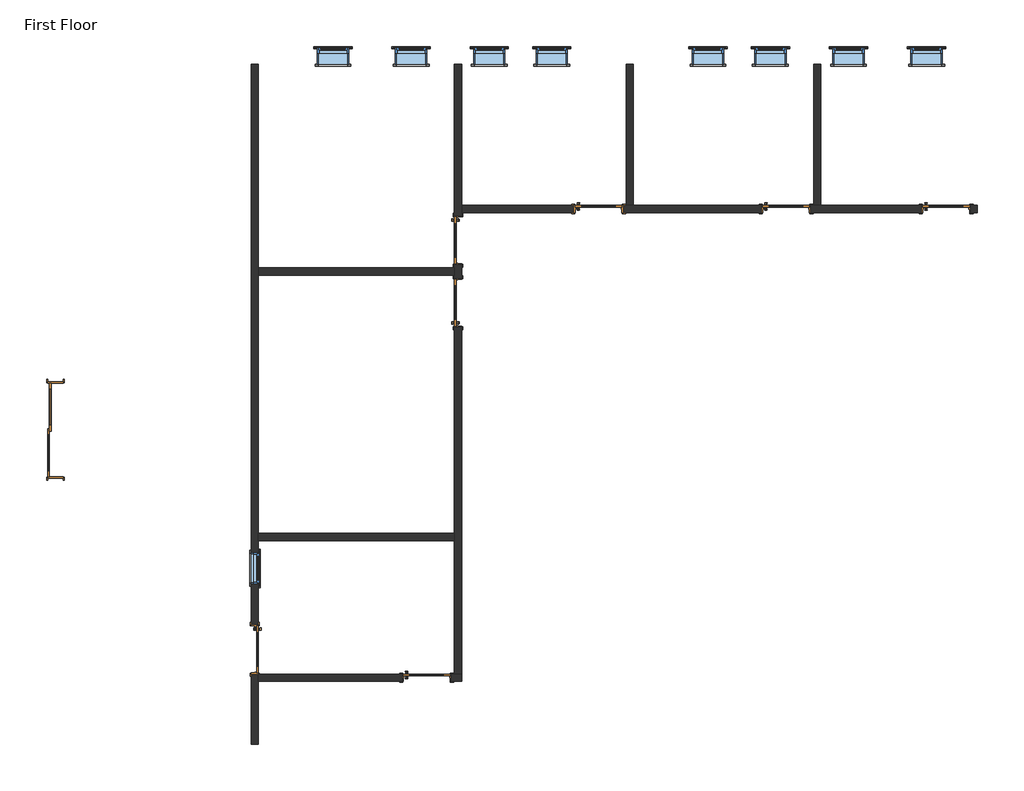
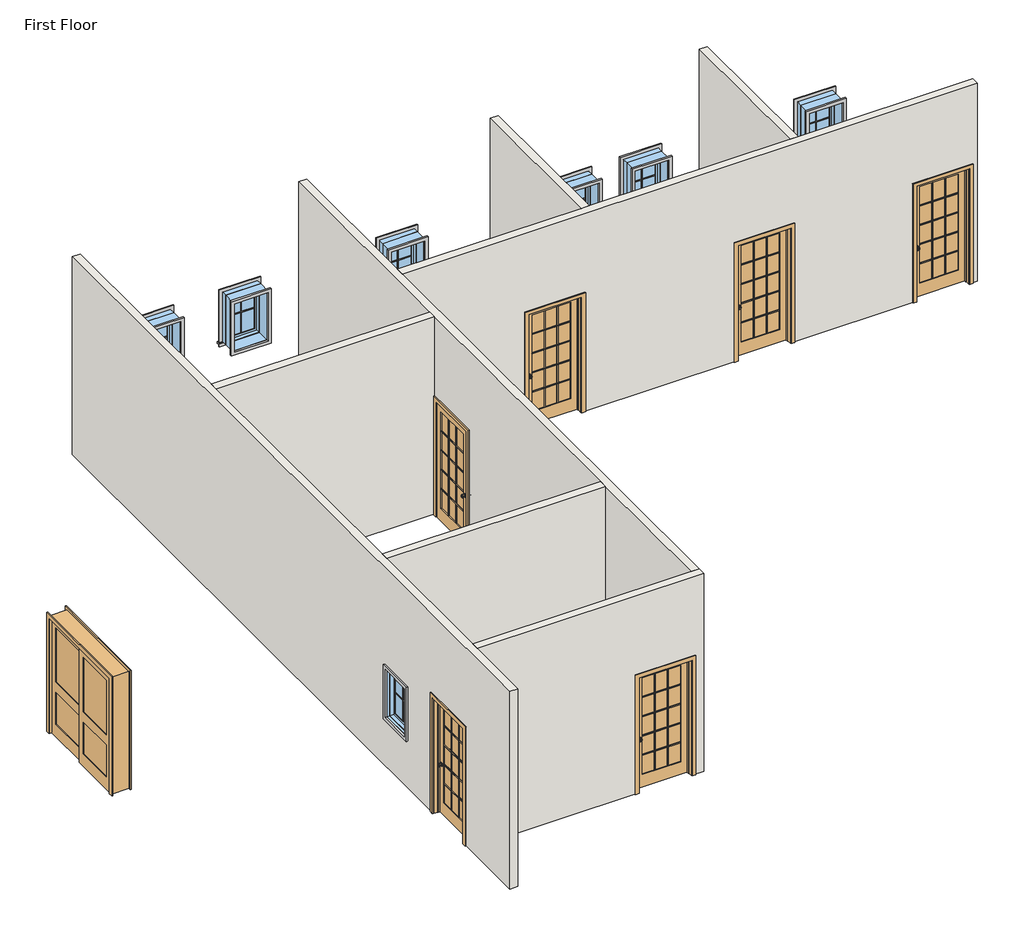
# One storey: 27 proxies, 9 windows, 8 doors, 8 walls.
"""IFC4 building model written with IfcOpenShell, lengths in millimetres."""

from ifc_helpers import new_model, si_unit, frame, origin, place, context, project, spatial, polyline, outline, extrude, faceted_brep, transform, mapped, element, save
from components import muntin_pattern_2x2_muntin_pattern_2x2_cf4092f1, muntin_pattern_2x2_muntin_pattern_2x2_49143b38, trim_window_exterior_flat_with_sill_a665a915, trim_window_exterior_flat_with_sill_4c72db77, trim_window_interior_flat_picture_frame_d485c387, trim_window_interior_flat_picture_frame_dfd23ff3, door_956c32c9, door_918c180d, door_79dd3e86, window_d7bc73cd, window_8e02f281, window_2fd3c40a

model = new_model("IFC4")

# Units and contexts
model_context = context("Model", 3, world=origin())
ifc_project = project(units=[si_unit("LENGTHUNIT", "METRE", prefix="MILLI")], contexts=[model_context])

# Site, building, storey
site = spatial("IfcSite", under=ifc_project)
building = spatial("IfcBuilding", under=site)
storey = spatial("IfcBuildingStorey", under=building, Name="First Floor", Elevation=3657.6)

# Proxies
placement = place(None, origin())
muntin_pattern_2x2_muntin_pattern_2x2_shape = muntin_pattern_2x2_muntin_pattern_2x2_cf4092f1(model_context)
element("IfcBuildingElementProxy", 1, Name="Muntin Pattern_2x2 : Muntin Pattern_2x2", ObjectType="Muntin Pattern_2x2 : Muntin Pattern_2x2", at=placement, inside=storey, context=model_context, shape_type="MappedRepresentation", body=[
    mapped(muntin_pattern_2x2_muntin_pattern_2x2_shape, transform((-14168.6597136, 1858.8705992, 4641.85), x_axis=(0.0, -1.0, 0.0), y_axis=(1.0, 0.0, 0.0), z_axis=(0.0, 0.0, 1.0))),
])
element("IfcBuildingElementProxy", 2, Name="Muntin Pattern_2x2 : Muntin Pattern_2x2", ObjectType="Muntin Pattern_2x2 : Muntin Pattern_2x2", at=placement, inside=storey, context=model_context, shape_type="MappedRepresentation", body=[
    mapped(muntin_pattern_2x2_muntin_pattern_2x2_shape, transform((-1122.5847136, 11991.8830992, 4641.85), x_axis=(1.0, 0.0, 0.0), y_axis=(0.0, 1.0, 0.0), z_axis=(0.0, 0.0, 1.0))),
])
element("IfcBuildingElementProxy", 3, Name="Muntin Pattern_2x2 : Muntin Pattern_2x2", ObjectType="Muntin Pattern_2x2 : Muntin Pattern_2x2", at=placement, inside=storey, context=model_context, shape_type="MappedRepresentation", body=[
    mapped(muntin_pattern_2x2_muntin_pattern_2x2_shape, transform((-2646.5847136, 11991.8830992, 4641.85), x_axis=(1.0, 0.0, 0.0), y_axis=(0.0, 1.0, 0.0), z_axis=(0.0, 0.0, 1.0))),
])
element("IfcBuildingElementProxy", 4, Name="Muntin Pattern_2x2 : Muntin Pattern_2x2", ObjectType="Muntin Pattern_2x2 : Muntin Pattern_2x2", at=placement, inside=storey, context=model_context, shape_type="MappedRepresentation", body=[
    mapped(muntin_pattern_2x2_muntin_pattern_2x2_shape, transform((-4170.5847136, 11991.8830992, 4641.85), x_axis=(1.0, 0.0, 0.0), y_axis=(0.0, 1.0, 0.0), z_axis=(0.0, 0.0, 1.0))),
])
element("IfcBuildingElementProxy", 5, Name="Muntin Pattern_2x2 : Muntin Pattern_2x2", ObjectType="Muntin Pattern_2x2 : Muntin Pattern_2x2", at=placement, inside=storey, context=model_context, shape_type="MappedRepresentation", body=[
    mapped(muntin_pattern_2x2_muntin_pattern_2x2_shape, transform((-5389.7847136, 11991.8830992, 4641.85), x_axis=(1.0, 0.0, 0.0), y_axis=(0.0, 1.0, 0.0), z_axis=(0.0, 0.0, 1.0))),
])
muntin_pattern_2x2_muntin_pattern_2x2_2_shape = muntin_pattern_2x2_muntin_pattern_2x2_49143b38(model_context)
element("IfcBuildingElementProxy", 6, Name="Muntin Pattern_2x2 : Muntin Pattern_2x2", ObjectType="Muntin Pattern_2x2 : Muntin Pattern_2x2", at=placement, inside=storey, context=model_context, shape_type="MappedRepresentation", body=[
    mapped(muntin_pattern_2x2_muntin_pattern_2x2_2_shape, transform((-12704.9847136, 11991.8830992, 4641.85), x_axis=(-1.0, 0.0, 0.0), y_axis=(0.0, -1.0, 0.0), z_axis=(0.0, 0.0, 1.0))),
])
element("IfcBuildingElementProxy", 7, Name="Muntin Pattern_2x2 : Muntin Pattern_2x2", ObjectType="Muntin Pattern_2x2 : Muntin Pattern_2x2", at=placement, inside=storey, context=model_context, shape_type="MappedRepresentation", body=[
    mapped(muntin_pattern_2x2_muntin_pattern_2x2_2_shape, transform((-11180.9847136, 11991.8830992, 4641.85), x_axis=(-1.0, 0.0, 0.0), y_axis=(0.0, -1.0, 0.0), z_axis=(0.0, 0.0, 1.0))),
])
element("IfcBuildingElementProxy", 8, Name="Muntin Pattern_2x2 : Muntin Pattern_2x2", ObjectType="Muntin Pattern_2x2 : Muntin Pattern_2x2", at=placement, inside=storey, context=model_context, shape_type="MappedRepresentation", body=[
    mapped(muntin_pattern_2x2_muntin_pattern_2x2_2_shape, transform((-9656.9847136, 11991.8830992, 4641.85), x_axis=(-1.0, 0.0, 0.0), y_axis=(0.0, -1.0, 0.0), z_axis=(0.0, 0.0, 1.0))),
])
element("IfcBuildingElementProxy", 9, Name="Muntin Pattern_2x2 : Muntin Pattern_2x2", ObjectType="Muntin Pattern_2x2 : Muntin Pattern_2x2", at=placement, inside=storey, context=model_context, shape_type="MappedRepresentation", body=[
    mapped(muntin_pattern_2x2_muntin_pattern_2x2_2_shape, transform((-8437.7847136, 11991.8830992, 4641.85), x_axis=(-1.0, 0.0, 0.0), y_axis=(0.0, -1.0, 0.0), z_axis=(0.0, 0.0, 1.0))),
])
trim_window_exterior_flat_with_sill_shape = trim_window_exterior_flat_with_sill_a665a915(model_context)
element("IfcBuildingElementProxy", 10, Name="Trim-Window-Exterior-Flat : with Sill", ObjectType="Trim-Window-Exterior-Flat : with Sill", at=placement, inside=storey, context=model_context, shape_type="MappedRepresentation", body=[
    mapped(trim_window_exterior_flat_with_sill_shape, transform((-14159.1347136, 1858.8705992, 5486.4), x_axis=(0.0, 1.0, 0.0), y_axis=(0.0, 0.0, 1.0), z_axis=(1.0, 0.0, 0.0))),
])
element("IfcBuildingElementProxy", 11, Name="Trim-Window-Exterior-Flat : with Sill", ObjectType="Trim-Window-Exterior-Flat : with Sill", at=placement, inside=storey, context=model_context, shape_type="MappedRepresentation", body=[
    mapped(trim_window_exterior_flat_with_sill_shape, transform((-1122.5847136, 12001.4080992, 5486.4), x_axis=(-1.0, 0.0, 0.0), y_axis=(0.0, 0.0, 1.0), z_axis=(0.0, 1.0, 0.0))),
])
element("IfcBuildingElementProxy", 12, Name="Trim-Window-Exterior-Flat : with Sill", ObjectType="Trim-Window-Exterior-Flat : with Sill", at=placement, inside=storey, context=model_context, shape_type="MappedRepresentation", body=[
    mapped(trim_window_exterior_flat_with_sill_shape, transform((-2646.5847136, 12001.4080992, 5486.4), x_axis=(-1.0, 0.0, 0.0), y_axis=(0.0, 0.0, 1.0), z_axis=(0.0, 1.0, 0.0))),
])
element("IfcBuildingElementProxy", 13, Name="Trim-Window-Exterior-Flat : with Sill", ObjectType="Trim-Window-Exterior-Flat : with Sill", at=placement, inside=storey, context=model_context, shape_type="MappedRepresentation", body=[
    mapped(trim_window_exterior_flat_with_sill_shape, transform((-4170.5847136, 12001.4080992, 5486.4), x_axis=(-1.0, 0.0, 0.0), y_axis=(0.0, 0.0, 1.0), z_axis=(0.0, 1.0, 0.0))),
])
element("IfcBuildingElementProxy", 14, Name="Trim-Window-Exterior-Flat : with Sill", ObjectType="Trim-Window-Exterior-Flat : with Sill", at=placement, inside=storey, context=model_context, shape_type="MappedRepresentation", body=[
    mapped(trim_window_exterior_flat_with_sill_shape, transform((-5389.7847136, 12001.4080992, 5486.4), x_axis=(-1.0, 0.0, 0.0), y_axis=(0.0, 0.0, 1.0), z_axis=(0.0, 1.0, 0.0))),
])
trim_window_exterior_flat_with_sill_2_shape = trim_window_exterior_flat_with_sill_4c72db77(model_context)
element("IfcBuildingElementProxy", 15, Name="Trim-Window-Exterior-Flat : with Sill", ObjectType="Trim-Window-Exterior-Flat : with Sill", at=placement, inside=storey, context=model_context, shape_type="MappedRepresentation", body=[
    mapped(trim_window_exterior_flat_with_sill_2_shape, transform((-12704.9847136, 12001.4080992, 5486.4), x_axis=(1.0, 0.0, 0.0), y_axis=(0.0, 0.0, -1.0), z_axis=(0.0, 1.0, 0.0))),
])
element("IfcBuildingElementProxy", 16, Name="Trim-Window-Exterior-Flat : with Sill", ObjectType="Trim-Window-Exterior-Flat : with Sill", at=placement, inside=storey, context=model_context, shape_type="MappedRepresentation", body=[
    mapped(trim_window_exterior_flat_with_sill_2_shape, transform((-11180.9847136, 12001.4080992, 5486.4), x_axis=(1.0, 0.0, 0.0), y_axis=(0.0, 0.0, -1.0), z_axis=(0.0, 1.0, 0.0))),
])
element("IfcBuildingElementProxy", 17, Name="Trim-Window-Exterior-Flat : with Sill", ObjectType="Trim-Window-Exterior-Flat : with Sill", at=placement, inside=storey, context=model_context, shape_type="MappedRepresentation", body=[
    mapped(trim_window_exterior_flat_with_sill_2_shape, transform((-9656.9847136, 12001.4080992, 5486.4), x_axis=(1.0, 0.0, 0.0), y_axis=(0.0, 0.0, -1.0), z_axis=(0.0, 1.0, 0.0))),
])
element("IfcBuildingElementProxy", 18, Name="Trim-Window-Exterior-Flat : with Sill", ObjectType="Trim-Window-Exterior-Flat : with Sill", at=placement, inside=storey, context=model_context, shape_type="MappedRepresentation", body=[
    mapped(trim_window_exterior_flat_with_sill_2_shape, transform((-8437.7847136, 12001.4080992, 5486.4), x_axis=(1.0, 0.0, 0.0), y_axis=(0.0, 0.0, -1.0), z_axis=(0.0, 1.0, 0.0))),
])
trim_window_interior_flat_picture_frame_shape = trim_window_interior_flat_picture_frame_d485c387(model_context)
element("IfcBuildingElementProxy", 19, Name="Trim-Window-Interior-Flat : Picture Frame", ObjectType="Trim-Window-Interior-Flat : Picture Frame", at=placement, inside=storey, context=model_context, shape_type="MappedRepresentation", body=[
    mapped(trim_window_interior_flat_picture_frame_shape, transform((-14298.8347136, 1858.8705992, 5486.4), x_axis=(0.0, -1.0, 0.0), y_axis=(0.0, 0.0, 1.0), z_axis=(-1.0, 0.0, 0.0))),
])
element("IfcBuildingElementProxy", 20, Name="Trim-Window-Interior-Flat : Picture Frame", ObjectType="Trim-Window-Interior-Flat : Picture Frame", at=placement, inside=storey, context=model_context, shape_type="MappedRepresentation", body=[
    mapped(trim_window_interior_flat_picture_frame_shape, transform((-1122.5847136, 11690.2580992, 5486.4), x_axis=(1.0, 0.0, 0.0), y_axis=(0.0, 0.0, 1.0), z_axis=(0.0, -1.0, 0.0))),
])
element("IfcBuildingElementProxy", 21, Name="Trim-Window-Interior-Flat : Picture Frame", ObjectType="Trim-Window-Interior-Flat : Picture Frame", at=placement, inside=storey, context=model_context, shape_type="MappedRepresentation", body=[
    mapped(trim_window_interior_flat_picture_frame_shape, transform((-2646.5847136, 11690.2580992, 5486.4), x_axis=(1.0, 0.0, 0.0), y_axis=(0.0, 0.0, 1.0), z_axis=(0.0, -1.0, 0.0))),
])
element("IfcBuildingElementProxy", 22, Name="Trim-Window-Interior-Flat : Picture Frame", ObjectType="Trim-Window-Interior-Flat : Picture Frame", at=placement, inside=storey, context=model_context, shape_type="MappedRepresentation", body=[
    mapped(trim_window_interior_flat_picture_frame_shape, transform((-4170.5847136, 11690.2580992, 5486.4), x_axis=(1.0, 0.0, 0.0), y_axis=(0.0, 0.0, 1.0), z_axis=(0.0, -1.0, 0.0))),
])
element("IfcBuildingElementProxy", 23, Name="Trim-Window-Interior-Flat : Picture Frame", ObjectType="Trim-Window-Interior-Flat : Picture Frame", at=placement, inside=storey, context=model_context, shape_type="MappedRepresentation", body=[
    mapped(trim_window_interior_flat_picture_frame_shape, transform((-5389.7847136, 11690.2580992, 5486.4), x_axis=(1.0, 0.0, 0.0), y_axis=(0.0, 0.0, 1.0), z_axis=(0.0, -1.0, 0.0))),
])
trim_window_interior_flat_picture_frame_2_shape = trim_window_interior_flat_picture_frame_dfd23ff3(model_context)
element("IfcBuildingElementProxy", 24, Name="Trim-Window-Interior-Flat : Picture Frame", ObjectType="Trim-Window-Interior-Flat : Picture Frame", at=placement, inside=storey, context=model_context, shape_type="MappedRepresentation", body=[
    mapped(trim_window_interior_flat_picture_frame_2_shape, transform((-12704.9847136, 11690.2580992, 5486.4), x_axis=(-1.0, 0.0, 0.0), y_axis=(0.0, 0.0, -1.0), z_axis=(0.0, -1.0, 0.0))),
])
element("IfcBuildingElementProxy", 25, Name="Trim-Window-Interior-Flat : Picture Frame", ObjectType="Trim-Window-Interior-Flat : Picture Frame", at=placement, inside=storey, context=model_context, shape_type="MappedRepresentation", body=[
    mapped(trim_window_interior_flat_picture_frame_2_shape, transform((-11180.9847136, 11690.2580992, 5486.4), x_axis=(-1.0, 0.0, 0.0), y_axis=(0.0, 0.0, -1.0), z_axis=(0.0, -1.0, 0.0))),
])
element("IfcBuildingElementProxy", 26, Name="Trim-Window-Interior-Flat : Picture Frame", ObjectType="Trim-Window-Interior-Flat : Picture Frame", at=placement, inside=storey, context=model_context, shape_type="MappedRepresentation", body=[
    mapped(trim_window_interior_flat_picture_frame_2_shape, transform((-9656.9847136, 11690.2580992, 5486.4), x_axis=(-1.0, 0.0, 0.0), y_axis=(0.0, 0.0, -1.0), z_axis=(0.0, -1.0, 0.0))),
])
element("IfcBuildingElementProxy", 27, Name="Trim-Window-Interior-Flat : Picture Frame", ObjectType="Trim-Window-Interior-Flat : Picture Frame", at=placement, inside=storey, context=model_context, shape_type="MappedRepresentation", body=[
    mapped(trim_window_interior_flat_picture_frame_2_shape, transform((-8437.7847136, 11690.2580992, 5486.4), x_axis=(-1.0, 0.0, 0.0), y_axis=(0.0, 0.0, -1.0), z_axis=(0.0, -1.0, 0.0))),
])

# Doors
door_shape = door_956c32c9(model_context)
element("IfcDoor", 28, ObjectType="Door-Interior-Double-Sliding-2_Panel-Wood : 72\" x 84\"", at=placement, inside=storey, context=model_context, shape_type="MappedRepresentation", body=[
    mapped(door_shape, transform((-18123.1222136, 4559.7577587, 3657.6), x_axis=(0.0, 1.0, 0.0), y_axis=(-1.0, 0.0, 0.0), z_axis=(0.0, 0.0, 1.0))),
])
door_2_shape = door_918c180d(model_context)
element("IfcDoor", 29, ObjectType="Door-Interior-Single-Full Glass-Wood : 36\" x 84\"", at=placement, inside=storey, context=model_context, shape_type="MappedRepresentation", body=[
    mapped(door_2_shape, transform((-14225.8097136, 277.7205992, 3657.6), x_axis=(0.0, -1.0, 0.0), y_axis=(1.0, 0.0, 0.0), z_axis=(0.0, 0.0, 1.0))),
])
element("IfcDoor", 30, ObjectType="Door-Interior-Single-Full Glass-Wood : 36\" x 84\"", at=placement, inside=storey, context=model_context, shape_type="MappedRepresentation", body=[
    mapped(door_2_shape, transform((-10269.7597136, 7040.4705992, 3657.6), x_axis=(0.0, 1.0, 0.0), y_axis=(-1.0, 0.0, 0.0), z_axis=(0.0, 0.0, 1.0))),
])
element("IfcDoor", 31, ObjectType="Door-Interior-Single-Full Glass-Wood : 36\" x 84\"", at=placement, inside=storey, context=model_context, shape_type="MappedRepresentation", body=[
    mapped(door_2_shape, transform((-7523.3847136, 8872.4455992, 3657.6), x_axis=(1.0, 0.0, 0.0), y_axis=(0.0, 1.0, 0.0), z_axis=(0.0, 0.0, 1.0))),
])
element("IfcDoor", 32, ObjectType="Door-Interior-Single-Full Glass-Wood : 36\" x 84\"", at=placement, inside=storey, context=model_context, shape_type="MappedRepresentation", body=[
    mapped(door_2_shape, transform((-3865.7847136, 8872.4455992, 3657.6), x_axis=(1.0, 0.0, 0.0), y_axis=(0.0, 1.0, 0.0), z_axis=(0.0, 0.0, 1.0))),
])
element("IfcDoor", 33, ObjectType="Door-Interior-Single-Full Glass-Wood : 36\" x 84\"", at=placement, inside=storey, context=model_context, shape_type="MappedRepresentation", body=[
    mapped(door_2_shape, transform((-739.9972136, 8872.4455992, 3657.6), x_axis=(1.0, 0.0, 0.0), y_axis=(0.0, 1.0, 0.0), z_axis=(0.0, 0.0, 1.0))),
])
element("IfcDoor", 34, ObjectType="Door-Interior-Single-Full Glass-Wood : 36\" x 84\"", at=placement, inside=storey, context=model_context, shape_type="MappedRepresentation", body=[
    mapped(door_2_shape, transform((-10876.1847136, -271.5544008, 3657.6), x_axis=(1.0, 0.0, 0.0), y_axis=(0.0, 1.0, 0.0), z_axis=(0.0, 0.0, 1.0))),
])
door_3_shape = door_79dd3e86(model_context)
element("IfcDoor", 35, ObjectType="Door-Interior-Single-Full Glass-Wood : 36\" x 84\"", at=placement, inside=storey, context=model_context, shape_type="MappedRepresentation", body=[
    mapped(door_3_shape, transform((-10269.7597136, 8259.6705992, 3657.6), x_axis=(0.0, -1.0, 0.0), y_axis=(1.0, 0.0, 0.0), z_axis=(0.0, 0.0, 1.0))),
])

# Walls
element("IfcWall", 36, ObjectType="Interior - 5 1/2\" Partition (1-hr)", at=placement, inside=storey, context=model_context, shape_type="Brep", body=[
    faceted_brep([(-14298.8347136, -1571.7169008, 7315.2), (-14298.8347136, 11690.2580992, 7315.2), (-14298.8347136, 11690.2580992, 3657.6), (-14298.8347136, 760.3205992, 3657.6), (-14298.8347136, 760.3205992, 5816.6), (-14298.8347136, -204.8794008, 5816.6), (-14298.8347136, -204.8794008, 3657.6), (-14298.8347136, -1571.7169008, 3657.6), (-14298.8347136, 1554.0705992, 5486.4), (-14298.8347136, 1554.0705992, 4572.0), (-14298.8347136, 2163.6705992, 4572.0), (-14298.8347136, 2163.6705992, 5486.4), (-14159.1347136, 11690.2580992, 7315.2), (-14159.1347136, 7719.9205992, 7315.2), (-14159.1347136, 7580.2205992, 7315.2), (-14159.1347136, 2538.3205992, 7315.2), (-14159.1347136, 2398.6205992, 7315.2), (-14159.1347136, -204.8794008, 7315.2), (-14159.1347136, -344.5794008, 7315.2), (-14159.1347136, -1571.7169008, 7315.2), (-14159.1347136, -1571.7169008, 3657.6), (-14159.1347136, -344.5794008, 3657.6), (-14159.1347136, -204.8794008, 3657.6), (-14159.1347136, -204.8794008, 5816.6), (-14159.1347136, 760.3205992, 5816.6), (-14159.1347136, 760.3205992, 3657.6), (-14159.1347136, 2398.6205992, 3657.6), (-14159.1347136, 2538.3205992, 3657.6), (-14159.1347136, 7580.2205992, 3657.6), (-14159.1347136, 7719.9205992, 3657.6), (-14159.1347136, 11690.2580992, 3657.6), (-14159.1347136, 1554.0705992, 5486.4), (-14159.1347136, 2163.6705992, 5486.4), (-14159.1347136, 2163.6705992, 4572.0), (-14159.1347136, 1554.0705992, 4572.0)], [[[0, 1, 2, 3, 4, 5, 6, 7], [8, 9, 10, 11]], [[12, 13, 14, 15, 16, 17, 18, 19, 20, 21, 22, 23, 24, 25, 26, 27, 28, 29, 30], [31, 32, 33, 34]], [[2, 30, 29, 28, 27, 26, 25, 3]], [[20, 7, 6, 22, 21]], [[1, 0, 19, 18, 17, 16, 15, 14, 13, 12]], [[5, 23, 22, 6]], [[23, 5, 4, 24]], [[24, 4, 3, 25]], [[9, 8, 31, 34]], [[10, 9, 34, 33]], [[11, 10, 33, 32]], [[8, 11, 32, 31]], [[2, 1, 12, 30]], [[0, 7, 20, 19]]]),
])
element("IfcWall", 37, ObjectType="Interior - 5 1/2\" Partition (1-hr)", at=placement, inside=storey, context=model_context, shape_type="Brep", body=[
    faceted_brep([(-10196.7347136, -344.5794008, 7315.2), (-14159.1347136, -344.5794008, 7315.2), (-14159.1347136, -344.5794008, 3657.6), (-11358.7847136, -344.5794008, 3657.6), (-11358.7847136, -344.5794008, 5816.6), (-10393.5847136, -344.5794008, 5816.6), (-10393.5847136, -344.5794008, 3657.6), (-10196.7347136, -344.5794008, 3657.6), (-14159.1347136, -204.8794008, 7315.2), (-10336.4347136, -204.8794008, 7315.2), (-10196.7347136, -204.8794008, 7315.2), (-10196.7347136, -204.8794008, 3657.6), (-10336.4347136, -204.8794008, 3657.6), (-10393.5847136, -204.8794008, 3657.6), (-10393.5847136, -204.8794008, 5816.6), (-11358.7847136, -204.8794008, 5816.6), (-11358.7847136, -204.8794008, 3657.6), (-14159.1347136, -204.8794008, 3657.6), (-14159.1347136, -204.8794008, 5816.6)], [[[0, 1, 2, 3, 4, 5, 6, 7]], [[8, 9, 10, 11, 12, 13, 14, 15, 16, 17, 18]], [[2, 17, 16, 3]], [[11, 7, 6, 13, 12]], [[1, 0, 10, 9, 8]], [[2, 1, 8, 18, 17]], [[0, 7, 11, 10]], [[5, 14, 13, 6]], [[14, 5, 4, 15]], [[15, 4, 3, 16]]]),
])
element("IfcWall", 38, ObjectType="Interior - 5 1/2\" Partition (1-hr)", at=placement, inside=storey, context=model_context, shape_type="Brep", body=[
    faceted_brep([(-10196.7347136, 11690.2580992, 7315.2), (-10196.7347136, 8939.1205992, 7315.2), (-10196.7347136, 8799.4205992, 7315.2), (-10196.7347136, -204.8794008, 7315.2), (-10196.7347136, -204.8794008, 3657.6), (-10196.7347136, 6557.8705992, 3657.6), (-10196.7347136, 6557.8705992, 5816.6), (-10196.7347136, 7523.0705992, 5816.6), (-10196.7347136, 7523.0705992, 3657.6), (-10196.7347136, 7777.0705992, 3657.6), (-10196.7347136, 7777.0705992, 5816.6), (-10196.7347136, 8742.2705992, 5816.6), (-10196.7347136, 8742.2705992, 3657.6), (-10196.7347136, 8799.4205992, 3657.6), (-10196.7347136, 8939.1205992, 3657.6), (-10196.7347136, 11690.2580992, 3657.6), (-10336.4347136, -204.8794008, 7315.2), (-10336.4347136, 2398.6205992, 7315.2), (-10336.4347136, 2538.3205992, 7315.2), (-10336.4347136, 7580.2205992, 7315.2), (-10336.4347136, 7719.9205992, 7315.2), (-10336.4347136, 11690.2580992, 7315.2), (-10336.4347136, 11690.2580992, 3657.6), (-10336.4347136, 8742.2705992, 3657.6), (-10336.4347136, 8742.2705992, 5816.6), (-10336.4347136, 7777.0705992, 5816.6), (-10336.4347136, 7777.0705992, 3657.6), (-10336.4347136, 7719.9205992, 3657.6), (-10336.4347136, 7580.2205992, 3657.6), (-10336.4347136, 7523.0705992, 3657.6), (-10336.4347136, 7523.0705992, 5816.6), (-10336.4347136, 6557.8705992, 5816.6), (-10336.4347136, 6557.8705992, 3657.6), (-10336.4347136, 2538.3205992, 3657.6), (-10336.4347136, 2398.6205992, 3657.6), (-10336.4347136, -204.8794008, 3657.6)], [[[0, 1, 2, 3, 4, 5, 6, 7, 8, 9, 10, 11, 12, 13, 14, 15]], [[16, 17, 18, 19, 20, 21, 22, 23, 24, 25, 26, 27, 28, 29, 30, 31, 32, 33, 34, 35]], [[4, 35, 34, 33, 32, 5]], [[8, 29, 28, 27, 26, 9]], [[22, 15, 14, 13, 12, 23]], [[3, 2, 1, 0, 21, 20, 19, 18, 17, 16]], [[4, 3, 16, 35]], [[7, 30, 29, 8]], [[30, 7, 6, 31]], [[31, 6, 5, 32]], [[25, 10, 9, 26]], [[10, 25, 24, 11]], [[11, 24, 23, 12]], [[0, 15, 22, 21]]]),
])
element("IfcWall", 39, ObjectType="Interior - 5 1/2\" Partition (1-hr)", at=placement, inside=storey, context=model_context, shape_type="Brep", body=[
    faceted_brep([(-10196.7347136, 8939.1205992, 7315.2), (-6983.6347136, 8939.1205992, 7315.2), (-6843.9347136, 8939.1205992, 7315.2), (-3326.0347136, 8939.1205992, 7315.2), (-3186.3347136, 8939.1205992, 7315.2), (-130.3972136, 8939.1205992, 7315.2), (-130.3972136, 8939.1205992, 3657.6), (-257.3972136, 8939.1205992, 3657.6), (-257.3972136, 8939.1205992, 5816.6), (-1222.5972136, 8939.1205992, 5816.6), (-1222.5972136, 8939.1205992, 3657.6), (-3186.3347136, 8939.1205992, 3657.6), (-3326.0347136, 8939.1205992, 3657.6), (-3383.1847136, 8939.1205992, 3657.6), (-3383.1847136, 8939.1205992, 5816.6), (-4348.3847136, 8939.1205992, 5816.6), (-4348.3847136, 8939.1205992, 3657.6), (-6843.9347136, 8939.1205992, 3657.6), (-6983.6347136, 8939.1205992, 3657.6), (-7040.7847136, 8939.1205992, 3657.6), (-7040.7847136, 8939.1205992, 5816.6), (-8005.9847136, 8939.1205992, 5816.6), (-8005.9847136, 8939.1205992, 3657.6), (-10196.7347136, 8939.1205992, 3657.6), (-130.3972136, 8799.4205992, 7315.2), (-10196.7347136, 8799.4205992, 7315.2), (-10196.7347136, 8799.4205992, 3657.6), (-8005.9847136, 8799.4205992, 3657.6), (-8005.9847136, 8799.4205992, 5816.6), (-7040.7847136, 8799.4205992, 5816.6), (-7040.7847136, 8799.4205992, 3657.6), (-4348.3847136, 8799.4205992, 3657.6), (-4348.3847136, 8799.4205992, 5816.6), (-3383.1847136, 8799.4205992, 5816.6), (-3383.1847136, 8799.4205992, 3657.6), (-1222.5972136, 8799.4205992, 3657.6), (-1222.5972136, 8799.4205992, 5816.6), (-257.3972136, 8799.4205992, 5816.6), (-257.3972136, 8799.4205992, 3657.6), (-130.3972136, 8799.4205992, 3657.6)], [[[0, 1, 2, 3, 4, 5, 6, 7, 8, 9, 10, 11, 12, 13, 14, 15, 16, 17, 18, 19, 20, 21, 22, 23]], [[24, 25, 26, 27, 28, 29, 30, 31, 32, 33, 34, 35, 36, 37, 38, 39]], [[26, 23, 22, 27]], [[30, 19, 18, 17, 16, 31]], [[34, 13, 12, 11, 10, 35]], [[6, 39, 38, 7]], [[5, 4, 3, 2, 1, 0, 25, 24]], [[0, 23, 26, 25]], [[29, 20, 19, 30]], [[20, 29, 28, 21]], [[21, 28, 27, 22]], [[33, 14, 13, 34]], [[14, 33, 32, 15]], [[15, 32, 31, 16]], [[37, 8, 7, 38]], [[8, 37, 36, 9]], [[9, 36, 35, 10]], [[6, 5, 24, 39]]]),
])
element("IfcWall", 40, ObjectType="Interior - 5 1/2\" Partition (1-hr)", at=placement, inside=storey, context=model_context, shape_type="SweptSolid", body=[
    extrude(outline(polyline([(-10336.4347136, 7580.2205992), (-14159.1347136, 7580.2205992), (-14159.1347136, 7719.9205992), (-10336.4347136, 7719.9205992), (-10336.4347136, 7580.2205992)])), frame((0.0, 0.0, 3657.6), z_axis=(0.0, 0.0, 1.0), x_axis=(1.0, 0.0, 0.0)), (0.0, 0.0, 1.0), 3657.6),
])
element("IfcWall", 41, ObjectType="Interior - 5 1/2\" Partition (1-hr)", at=placement, inside=storey, context=model_context, shape_type="SweptSolid", body=[
    extrude(outline(polyline([(-10336.4347136, 2398.6205992), (-14159.1347136, 2398.6205992), (-14159.1347136, 2538.3205992), (-10336.4347136, 2538.3205992), (-10336.4347136, 2398.6205992)])), frame((0.0, 0.0, 3657.6), z_axis=(0.0, 0.0, 1.0), x_axis=(1.0, 0.0, 0.0)), (0.0, 0.0, 1.0), 3657.6),
])
element("IfcWall", 42, ObjectType="Interior - 5 1/2\" Partition (1-hr)", at=placement, inside=storey, context=model_context, shape_type="SweptSolid", body=[
    extrude(outline(polyline([(-3326.0347136, 8939.1205992), (-3326.0347136, 11690.2580992), (-3186.3347136, 11690.2580992), (-3186.3347136, 8939.1205992), (-3326.0347136, 8939.1205992)])), frame((0.0, 0.0, 3657.6), z_axis=(0.0, 0.0, 1.0), x_axis=(1.0, 0.0, 0.0)), (0.0, 0.0, 1.0), 3657.6),
])
element("IfcWall", 43, ObjectType="Interior - 5 1/2\" Partition (1-hr)", at=placement, inside=storey, context=model_context, shape_type="SweptSolid", body=[
    extrude(outline(polyline([(-6983.6347136, 8939.1205992), (-6983.6347136, 11690.2580992), (-6843.9347136, 11690.2580992), (-6843.9347136, 8939.1205992), (-6983.6347136, 8939.1205992)])), frame((0.0, 0.0, 3657.6), z_axis=(0.0, 0.0, 1.0), x_axis=(1.0, 0.0, 0.0)), (0.0, 0.0, 1.0), 3657.6),
])

# Windows
window_shape = window_d7bc73cd(model_context)
element("IfcWindow", 44, ObjectType="Window-Awning-Single : 24\" x 36\"", at=placement, inside=storey, context=model_context, shape_type="MappedRepresentation", body=[
    mapped(window_shape, transform((-14228.9847136, 1858.8705992, 3657.6), x_axis=(0.0, -1.0, 0.0), y_axis=(1.0, 0.0, 0.0), z_axis=(0.0, 0.0, 1.0))),
])
window_2_shape = window_8e02f281(model_context)
element("IfcWindow", 45, ObjectType="Window-Awning-Single : 24\" x 36\"", at=placement, inside=storey, context=model_context, shape_type="MappedRepresentation", body=[
    mapped(window_2_shape, transform((-12704.9847136, 11845.8330992, 3657.6), x_axis=(-1.0, 0.0, 0.0), y_axis=(0.0, -1.0, 0.0), z_axis=(0.0, 0.0, 1.0))),
])
element("IfcWindow", 46, ObjectType="Window-Awning-Single : 24\" x 36\"", at=placement, inside=storey, context=model_context, shape_type="MappedRepresentation", body=[
    mapped(window_2_shape, transform((-11180.9847136, 11845.8330992, 3657.6), x_axis=(-1.0, 0.0, 0.0), y_axis=(0.0, -1.0, 0.0), z_axis=(0.0, 0.0, 1.0))),
])
element("IfcWindow", 47, ObjectType="Window-Awning-Single : 24\" x 36\"", at=placement, inside=storey, context=model_context, shape_type="MappedRepresentation", body=[
    mapped(window_2_shape, transform((-9656.9847136, 11845.8330992, 3657.6), x_axis=(-1.0, 0.0, 0.0), y_axis=(0.0, -1.0, 0.0), z_axis=(0.0, 0.0, 1.0))),
])
element("IfcWindow", 48, ObjectType="Window-Awning-Single : 24\" x 36\"", at=placement, inside=storey, context=model_context, shape_type="MappedRepresentation", body=[
    mapped(window_2_shape, transform((-8437.7847136, 11845.8330992, 3657.6), x_axis=(-1.0, 0.0, 0.0), y_axis=(0.0, -1.0, 0.0), z_axis=(0.0, 0.0, 1.0))),
])
window_3_shape = window_2fd3c40a(model_context)
element("IfcWindow", 49, ObjectType="Window-Awning-Single : 24\" x 36\"", at=placement, inside=storey, context=model_context, shape_type="MappedRepresentation", body=[
    mapped(window_3_shape, transform((-1122.5847136, 11845.8330992, 3657.6), x_axis=(1.0, 0.0, 0.0), y_axis=(0.0, 1.0, 0.0), z_axis=(0.0, 0.0, 1.0))),
])
element("IfcWindow", 50, ObjectType="Window-Awning-Single : 24\" x 36\"", at=placement, inside=storey, context=model_context, shape_type="MappedRepresentation", body=[
    mapped(window_3_shape, transform((-2646.5847136, 11845.8330992, 3657.6), x_axis=(1.0, 0.0, 0.0), y_axis=(0.0, 1.0, 0.0), z_axis=(0.0, 0.0, 1.0))),
])
element("IfcWindow", 51, ObjectType="Window-Awning-Single : 24\" x 36\"", at=placement, inside=storey, context=model_context, shape_type="MappedRepresentation", body=[
    mapped(window_3_shape, transform((-4170.5847136, 11845.8330992, 3657.6), x_axis=(1.0, 0.0, 0.0), y_axis=(0.0, 1.0, 0.0), z_axis=(0.0, 0.0, 1.0))),
])
element("IfcWindow", 52, ObjectType="Window-Awning-Single : 24\" x 36\"", at=placement, inside=storey, context=model_context, shape_type="MappedRepresentation", body=[
    mapped(window_3_shape, transform((-5389.7847136, 11845.8330992, 3657.6), x_axis=(1.0, 0.0, 0.0), y_axis=(0.0, 1.0, 0.0), z_axis=(0.0, 0.0, 1.0))),
])

save(model, "model.ifc")
